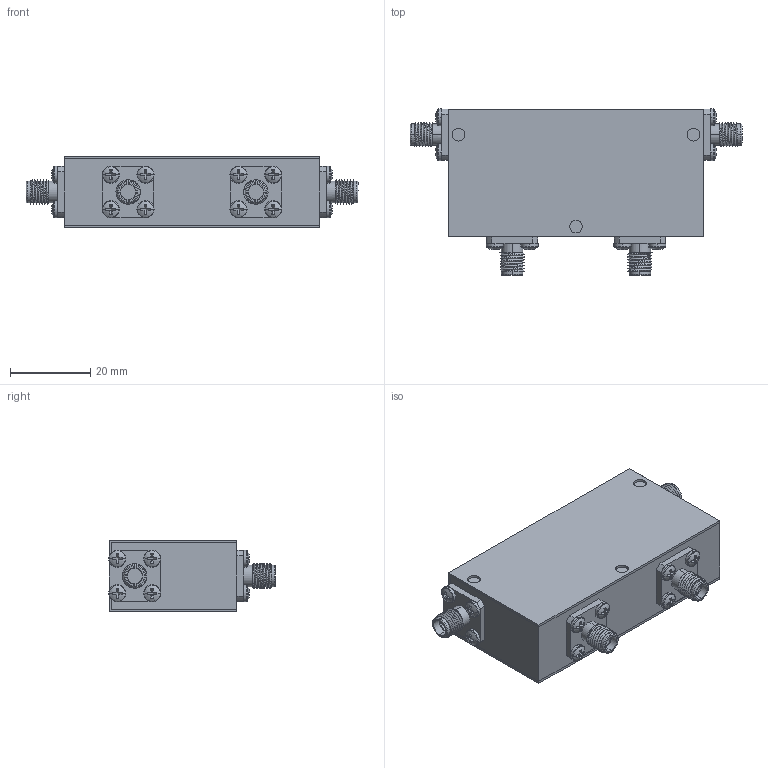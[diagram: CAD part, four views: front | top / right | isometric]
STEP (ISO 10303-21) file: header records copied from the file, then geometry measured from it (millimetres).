
FILE_DESCRIPTION (( 'STEP AP214' ), '1' );
FILE_NAME ('Package 18 Circ FFFF.step', '2021-12-01T20:58:56', ( '' ), ( '' ), 'SwSTEP 2.0', 'SolidWorks 2016', '' );
FILE_SCHEMA (( 'AUTOMOTIVE_DESIGN' ));
Length unit declared in the file: inch
Products named in the file (5): Package 18; pan cross head_ai_CR-PHMS 0.086-56x0.125x0.125-N; Delta SMA-Female 0.500 flange Threaded; Package Size 18; Package 18 Circ FFFF
Assembly tree (22 placements, depth 2):
  Package 18 Circ FFFF
    Package 18
    Delta SMA-Female 0.500 flange Threaded  x4
    pan cross head_ai_CR-PHMS 0.086-56x0.125x0.125-N  x16
    Package Size 18
Bounding box: 82.55 x 41.36 x 17.78 mm (x, y, z)
Volume: 37427.8 mm3; surface area: 21186.7 mm2
Topology: 22 solids, 22 shells, 552 faces, 1252 edges, 772 vertices
Faces by surface type: plane 304, cylinder 164, torus 40, sphere 32, bspline 12
Entity records: 3769 total; most frequent: CARTESIAN_POINT 1210, DIRECTION 537, ORIENTED_EDGE 434, EDGE_CURVE 217, AXIS2_PLACEMENT_3D 216, VERTEX_POINT 139, EDGE_LOOP 116, LINE 105
